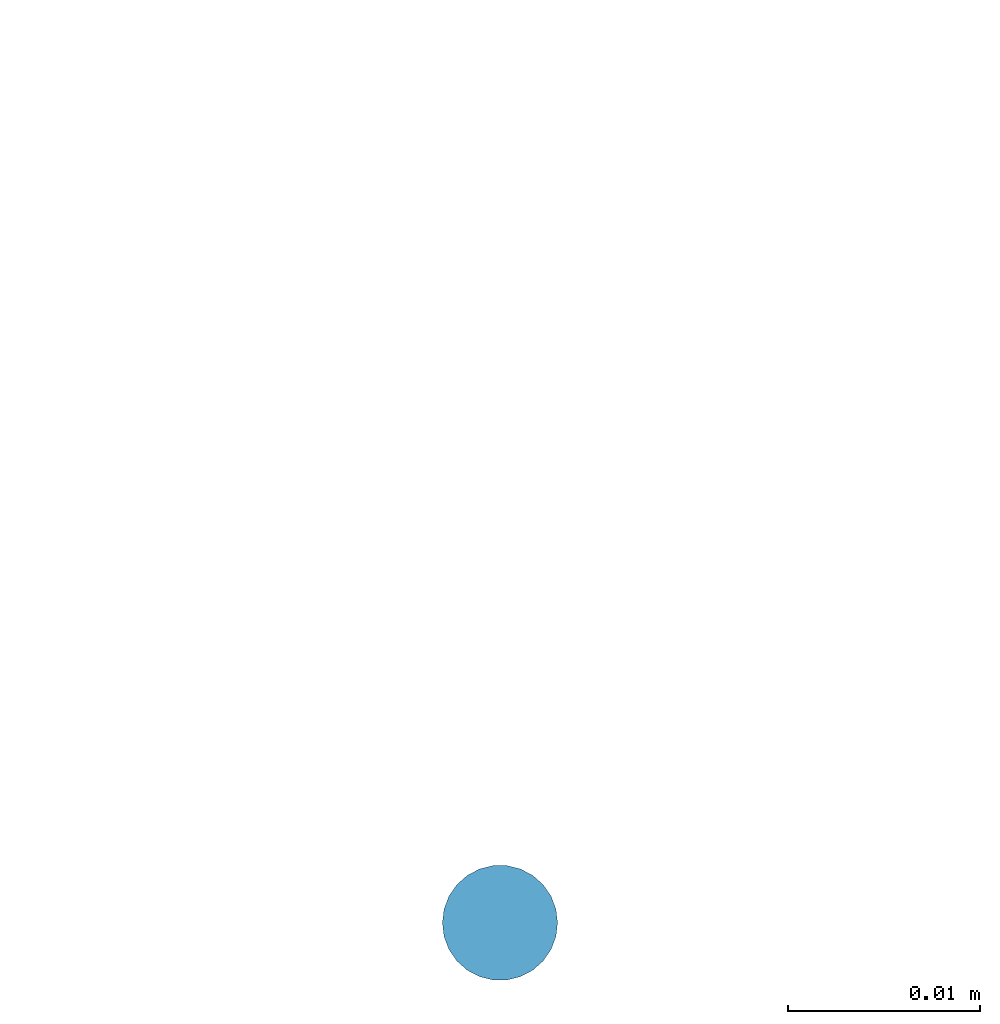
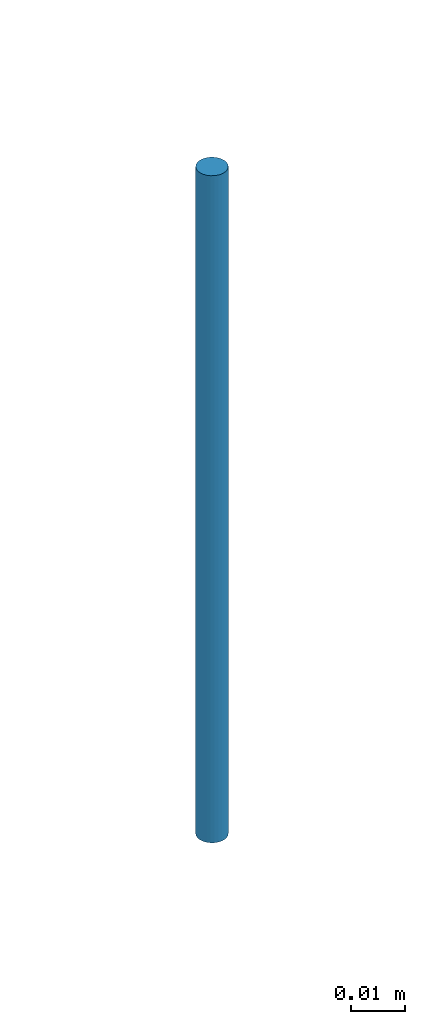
# One storey, part 5 of 6: 1 reinforcing bar.
"""IFC2X3 building model written with IfcOpenShell, lengths in centimetres."""

import ifcopenshell
import ifcopenshell.guid

model = None  # the IFC model being written
_history = None  # IfcOwnerHistory: only IFC2X3 demands one
_inside = {}  # id of a spatial element -> (the spatial element, [elements in it])
_under = {}  # id of a project, library or spatial element -> (it, [spatial elements below it])
_declared = {}  # id of a project -> (the project, [libraries it declares])
_typed = {}  # id of a type object -> (the type object, [elements of that type])
_made_of = {}  # id of a material, layer set ... -> (it, [elements and type objects made of it])


def new_model(schema):
    """Start an empty IFC model of exactly this schema.

    Asked for "IFC4X3", IfcOpenShell would pick the latest addendum, in which some entities
    have other attributes; the version numbers below select the first issue.
    IFC2X3 requires an IfcOwnerHistory on every rooted entity: one is made here for all.
    """
    global model, _history
    if schema == "IFC4X3":
        model = ifcopenshell.file(schema_version=(4, 3, 0, 0))
    else:
        model = ifcopenshell.file(schema=schema)
    _inside.clear()
    _under.clear()
    _declared.clear()
    _typed.clear()
    _made_of.clear()
    _history = None
    if model.schema == "IFC2X3":
        org = make("IfcOrganization", Name="unknown")
        user = make(
            "IfcPersonAndOrganization",
            ThePerson=make("IfcPerson", FamilyName="unknown"),
            TheOrganization=org,
        )
        app = make(
            "IfcApplication",
            ApplicationDeveloper=org,
            Version="unknown",
            ApplicationFullName="unknown",
            ApplicationIdentifier="unknown",
        )
        _history = make(
            "IfcOwnerHistory",
            OwningUser=user,
            OwningApplication=app,
            ChangeAction="ADDED",
            CreationDate=0,
        )
    return model


def make(cls, **values):
    """One entity of the class cls with the attributes given. An attribute that is None is left unset."""
    return model.create_entity(
        cls, **{name: value for name, value in values.items() if value is not None}
    )


def entity(cls, *values):
    """Any entity or typed value of the class cls, its attributes in the order of the schema. None: left unset."""
    e = model.create_entity(cls)
    for i, value in enumerate(values):
        if value is not None:
            e[i] = value
    return e


def rooted(cls, **values):
    """An entity with a GlobalId (a new one), such as an element, a storey or a relation."""
    return make(cls, GlobalId=ifcopenshell.guid.new(), OwnerHistory=_history, **values)


def si_unit(unit_type, name, prefix=None):
    """IfcSIUnit, for example si_unit("LENGTHUNIT", "METRE", prefix="MILLI")."""
    return make("IfcSIUnit", UnitType=unit_type, Prefix=prefix, Name=name)


def converted_unit(unit_type, name, factor, base, dimensions=None, offset=None):
    """IfcConversionBasedUnit, such as the inch: factor (a typed value) times the base unit."""
    return make(
        "IfcConversionBasedUnit"
        if offset is None
        else "IfcConversionBasedUnitWithOffset",
        ConversionOffset=offset,
        Dimensions=None
        if dimensions is None
        else entity("IfcDimensionalExponents", *dimensions),
        UnitType=unit_type,
        Name=name,
        ConversionFactor=make(
            "IfcMeasureWithUnit", ValueComponent=factor, UnitComponent=base
        ),
    )


def derived_unit(unit_type, elements):
    """IfcDerivedUnit: a product of units, each with its exponent."""
    return make(
        "IfcDerivedUnit",
        Elements=[
            make("IfcDerivedUnitElement", Unit=unit, Exponent=power)
            for unit, power in elements
        ],
        UnitType=unit_type,
    )


def assignment(units):
    """IfcUnitAssignment: the units of a project."""
    return None if units is None else make("IfcUnitAssignment", Units=units)


def point(xyz):
    """IfcCartesianPoint."""
    return None if xyz is None else make("IfcCartesianPoint", Coordinates=xyz)


def direction(xyz):
    """IfcDirection."""
    return None if xyz is None else make("IfcDirection", DirectionRatios=xyz)


def frame(location, z_axis=None, x_axis=None):
    """IfcAxis2Placement3D, a coordinate frame: its origin and axes. An axis left out is left unset."""
    return make(
        "IfcAxis2Placement3D",
        Location=point(location),
        Axis=direction(z_axis),
        RefDirection=direction(x_axis),
    )


def origin():
    """The frame at (0, 0, 0) with its axes left unset."""
    return frame((0.0, 0.0, 0.0))


def place(relative_to, where):
    """IfcLocalPlacement: puts the frame where relative to a parent placement (None: the world)."""
    return make(
        "IfcLocalPlacement", PlacementRelTo=relative_to, RelativePlacement=where
    )


def context(
    kind, dimensions, precision=None, world=None, true_north=None, identifier=None
):
    """IfcGeometricRepresentationContext, for example the 3D "Model" context."""
    return make(
        "IfcGeometricRepresentationContext",
        ContextIdentifier=identifier,
        ContextType=kind,
        CoordinateSpaceDimension=dimensions,
        Precision=precision,
        WorldCoordinateSystem=world,
        TrueNorth=true_north,
    )


def subcontext(parent, identifier, kind, view, scale=None):
    """IfcGeometricRepresentationSubContext, for example "Body" below "Model"."""
    return make(
        "IfcGeometricRepresentationSubContext",
        ContextIdentifier=identifier,
        ContextType=kind,
        ParentContext=parent,
        TargetScale=scale,
        TargetView=view,
    )


def project(units=None, contexts=None):
    """IfcProject with its units and contexts."""
    return rooted(
        "IfcProject",
        Name="project",
        RepresentationContexts=contexts,
        UnitsInContext=assignment(units),
    )


def spatial(cls, under=None, at=None, **own):
    """A site, building, storey or space (cls), placed at a placement, below another one or the project."""
    s = rooted(cls, ObjectPlacement=at, **own)
    if under is not None:
        _under.setdefault(under.id(), (under, []))[1].append(s)
    return s


def shape(context_of_items, identifier, shape_type, items):
    """IfcShapeRepresentation: the items that make up one representation, for example the "Body"."""
    return make(
        "IfcShapeRepresentation",
        ContextOfItems=context_of_items,
        RepresentationIdentifier=identifier,
        RepresentationType=shape_type,
        Items=items,
    )


def made_of(thing, what):
    """Note that an element or type object is made of a material, layer set ...; save() writes the relation."""
    if what is not None:
        _made_of.setdefault(what.id(), (what, []))[1].append(thing)
    return thing


def element(
    cls,
    number,
    at=None,
    inside=None,
    cuts=None,
    type_object=None,
    material=None,
    context=None,
    identifier="Body",
    shape_type=None,
    held_by="IfcProductDefinitionShape",
    body=None,
    shapes=None,
    **own,
):
    """One element of the class cls, such as IfcWall. Its Tag is "e" and its number.

    at: its placement. inside: the storey or other place that contains it. cuts: it is an
    opening in that element (IfcRelVoidsElement). A single representation is given by context,
    identifier, shape_type and body (its items); several are given by shapes. held_by: the class
    of the entity that holds the representations. save() writes the other relations.
    """
    e = rooted(cls, Tag="e%d" % number, ObjectPlacement=at, **own)
    if body is not None:
        shapes = [shape(context, identifier, shape_type, body)]
    if shapes is not None:
        e.Representation = make(held_by, Representations=shapes)
    if inside is not None:
        _inside.setdefault(inside.id(), (inside, []))[1].append(e)
    if cuts is not None:
        rooted(
            "IfcRelVoidsElement", RelatingBuildingElement=cuts, RelatedOpeningElement=e
        )
    if type_object is not None:
        _typed.setdefault(type_object.id(), (type_object, []))[1].append(e)
    return made_of(e, material)


def aggregate(whole, parts):
    """IfcRelAggregates: a whole, such as a stair, and the parts it consists of."""
    return rooted("IfcRelAggregates", RelatingObject=whole, RelatedObjects=parts)


def save(model, path):
    """Write the relations noted so far, then the file.

    IfcRelAggregates (storeys below a building ...), IfcRelContainedInSpatialStructure (elements
    in a storey), IfcRelDefinesByType, IfcRelAssociatesMaterial and IfcRelDeclares: one each for
    every whole, place, type object, material and project.
    """
    for whole, parts in _under.values():
        aggregate(whole, parts)
    for where, things in _inside.values():
        rooted(
            "IfcRelContainedInSpatialStructure",
            RelatedElements=things,
            RelatingStructure=where,
        )
    for kind, things in _typed.values():
        rooted("IfcRelDefinesByType", RelatedObjects=things, RelatingType=kind)
    for what, things in _made_of.values():
        rooted("IfcRelAssociatesMaterial", RelatedObjects=things, RelatingMaterial=what)
    for by, libraries in _declared.values():
        rooted("IfcRelDeclares", RelatingContext=by, RelatedDefinitions=libraries)
    model.write(path)


model = new_model("IFC2X3")

# Units and contexts
model_context = context("Model", 3, precision=0.001, world=origin(), true_north=direction((6.12303176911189e-17, 1.0)))
body_context = subcontext(model_context, "Body", "Model", "MODEL_VIEW")
ifc_project = project(units=[si_unit("LENGTHUNIT", "METRE", prefix="CENTI"), si_unit("AREAUNIT", "SQUARE_METRE"), si_unit("VOLUMEUNIT", "CUBIC_METRE"), converted_unit("PLANEANGLEUNIT", "DEGREE", entity("IfcRatioMeasure", 0.0174532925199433), si_unit("PLANEANGLEUNIT", "RADIAN"), dimensions=[0, 0, 0, 0, 0, 0, 0]), si_unit("MASSUNIT", "GRAM", prefix="KILO"), si_unit("TIMEUNIT", "SECOND"), si_unit("FREQUENCYUNIT", "HERTZ"), si_unit("THERMODYNAMICTEMPERATUREUNIT", "DEGREE_CELSIUS"), derived_unit("THERMALTRANSMITTANCEUNIT", [(si_unit("MASSUNIT", "GRAM", prefix="KILO"), 1), (si_unit("THERMODYNAMICTEMPERATUREUNIT", "KELVIN"), -1), (si_unit("TIMEUNIT", "SECOND"), -3)]), derived_unit("VOLUMETRICFLOWRATEUNIT", [(si_unit("LENGTHUNIT", "METRE"), 3), (si_unit("TIMEUNIT", "SECOND"), -1)]), si_unit("ELECTRICCURRENTUNIT", "AMPERE"), si_unit("ELECTRICVOLTAGEUNIT", "VOLT"), si_unit("POWERUNIT", "WATT"), si_unit("FORCEUNIT", "NEWTON"), si_unit("ILLUMINANCEUNIT", "LUX"), si_unit("LUMINOUSFLUXUNIT", "LUMEN"), si_unit("LUMINOUSINTENSITYUNIT", "CANDELA"), derived_unit("USERDEFINED", [(si_unit("MASSUNIT", "GRAM", prefix="KILO"), -1), (si_unit("LENGTHUNIT", "METRE"), -2), (si_unit("TIMEUNIT", "SECOND"), 3), (si_unit("LUMINOUSFLUXUNIT", "LUMEN"), 1)]), derived_unit("LINEARVELOCITYUNIT", [(si_unit("LENGTHUNIT", "METRE"), 1), (si_unit("TIMEUNIT", "SECOND"), -1)]), si_unit("PRESSUREUNIT", "PASCAL"), derived_unit("USERDEFINED", [(si_unit("LENGTHUNIT", "METRE"), -2), (si_unit("MASSUNIT", "GRAM", prefix="KILO"), 1), (si_unit("TIMEUNIT", "SECOND"), -2)])], contexts=[model_context])

# Site, building, storey
site_placement = place(None, origin())
site = spatial("IfcSite", under=ifc_project, at=site_placement, Name="Default", CompositionType="ELEMENT")
building_placement = place(site_placement, origin())
building = spatial("IfcBuilding", under=site, at=building_placement, CompositionType="ELEMENT")
storey_placement = place(building_placement, frame((0.0, 0.0, 544.0)))
storey = spatial("IfcBuildingStorey", under=building, at=storey_placement, Name="R+2", CompositionType="ELEMENT", Elevation=544.0)

# Reinforcing bar
reinforcing_bar_placement = place(storey_placement, origin())
element("IfcReinforcingBar", 1, at=reinforcing_bar_placement, inside=storey, Name="Barre d'armature:HA6 (Fe400) : Forme 00: 2", ObjectType="Barre d'armature:HA6 (Fe400)", BarLength=15.0, BarRole="NOTDEFINED", CrossSectionArea=2.82743338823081e-05, NominalDiameter=0.6, context=body_context, shape_type="AdvancedSweptSolid", body=[
    entity("IfcSweptDiskSolid", entity("IfcCompositeCurve", [entity("IfcCompositeCurveSegment", "CONTINUOUS", True, entity("IfcPolyline", [entity("IfcCartesianPoint", [1333.79424344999, 23210.5753424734, 252.5]), entity("IfcCartesianPoint", [1333.79424344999, 23210.5753424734, 267.5])]))], False), 0.3, None, 0.0, 1.0),
])

save(model, "model.ifc")
